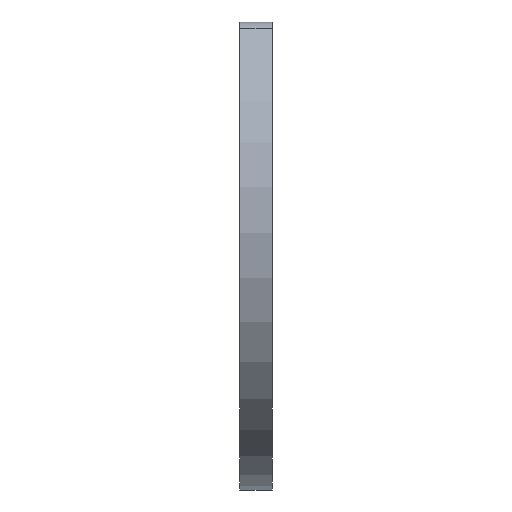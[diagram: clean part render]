
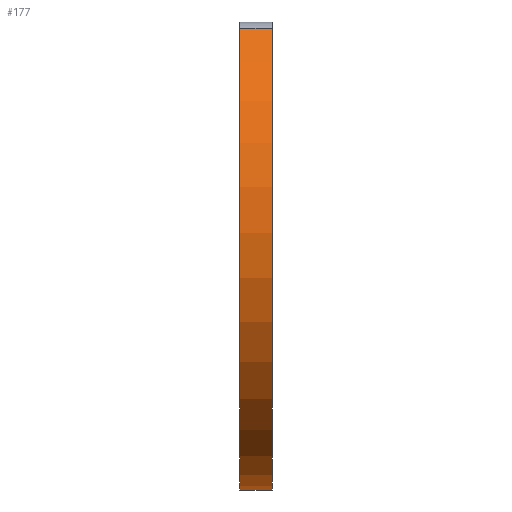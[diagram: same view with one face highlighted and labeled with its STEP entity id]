
A CAD part, left-side view. The second image highlights one B-rep face of the part: STEP entity #177.
In plain terms, the highlighted cylindrical face has radius 8.15 mm (diameter 16.3 mm), a partial arc.
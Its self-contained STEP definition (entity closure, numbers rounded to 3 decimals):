
#15 = VECTOR ( 'NONE', #441, 1000. ) ;
#63 = VECTOR ( 'NONE', #206, 1000. ) ;
#70 = CARTESIAN_POINT ( 'NONE',  ( -5.61, 0.5, 5.912 ) ) ;
#87 = DIRECTION ( 'NONE',  ( 0., 1., 0. ) ) ;
#95 = DIRECTION ( 'NONE',  ( 0., 0., -1. ) ) ;
#106 = AXIS2_PLACEMENT_3D ( 'NONE', #393, #691, #95 ) ;
#109 = EDGE_CURVE ( 'NONE', #741, #933, #852, .T. ) ;
#177 = ADVANCED_FACE ( 'NONE', ( #309 ), #926, .T. ) ;
#180 = CIRCLE ( 'NONE', #389, 8.15 ) ;
#206 = DIRECTION ( 'NONE',  ( 0., -1., 0. ) ) ;
#249 = CIRCLE ( 'NONE', #883, 8.15 ) ;
#260 = EDGE_CURVE ( 'NONE', #888, #741, #249, .T. ) ;
#304 = DIRECTION ( 'NONE',  ( 0., 1., 0. ) ) ;
#309 = FACE_OUTER_BOUND ( 'NONE', #851, .T. ) ;
#334 = VERTEX_POINT ( 'NONE', #599 ) ;
#360 = LINE ( 'NONE', #491, #63 ) ;
#366 = EDGE_CURVE ( 'NONE', #334, #888, #360, .T. ) ;
#377 = CARTESIAN_POINT ( 'NONE',  ( -5.61, -0.5, 5.912 ) ) ;
#389 = AXIS2_PLACEMENT_3D ( 'NONE', #598, #304, #453 ) ;
#393 = CARTESIAN_POINT ( 'NONE',  ( 0., 0.5, 0. ) ) ;
#441 = DIRECTION ( 'NONE',  ( 0., 1., 0. ) ) ;
#453 = DIRECTION ( 'NONE',  ( 0., 0., 1. ) ) ;
#491 = CARTESIAN_POINT ( 'NONE',  ( 0., 0.5, -8.15 ) ) ;
#541 = ORIENTED_EDGE ( 'NONE', *, *, #366, .T. ) ;
#563 = ORIENTED_EDGE ( 'NONE', *, *, #260, .T. ) ;
#571 = ORIENTED_EDGE ( 'NONE', *, *, #759, .F. ) ;
#598 = CARTESIAN_POINT ( 'NONE',  ( 0., 0.5, 0. ) ) ;
#599 = CARTESIAN_POINT ( 'NONE',  ( 0., 0.5, -8.15 ) ) ;
#619 = CARTESIAN_POINT ( 'NONE',  ( -5.61, 0.5, 5.912 ) ) ;
#671 = DIRECTION ( 'NONE',  ( 0., 0., 1. ) ) ;
#691 = DIRECTION ( 'NONE',  ( 0., -1., 0. ) ) ;
#741 = VERTEX_POINT ( 'NONE', #377 ) ;
#759 = EDGE_CURVE ( 'NONE', #334, #933, #180, .T. ) ;
#814 = CARTESIAN_POINT ( 'NONE',  ( 0., -0.5, -8.15 ) ) ;
#841 = ORIENTED_EDGE ( 'NONE', *, *, #109, .T. ) ;
#851 = EDGE_LOOP ( 'NONE', ( #571, #541, #563, #841 ) ) ;
#852 = LINE ( 'NONE', #70, #15 ) ;
#883 = AXIS2_PLACEMENT_3D ( 'NONE', #893, #87, #671 ) ;
#888 = VERTEX_POINT ( 'NONE', #814 ) ;
#893 = CARTESIAN_POINT ( 'NONE',  ( 0., -0.5, 0. ) ) ;
#926 = CYLINDRICAL_SURFACE ( 'NONE', #106, 8.15 ) ;
#933 = VERTEX_POINT ( 'NONE', #619 ) ;
